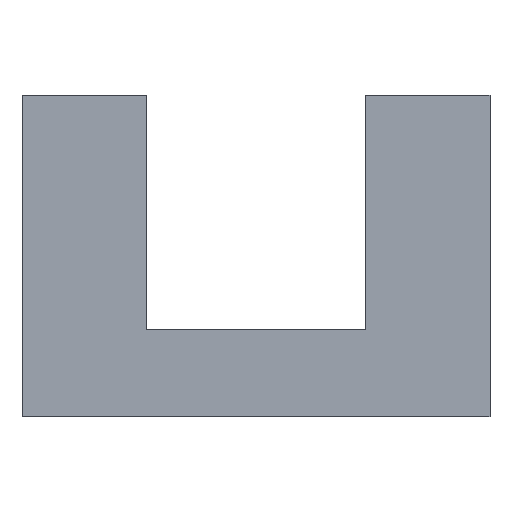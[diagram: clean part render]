
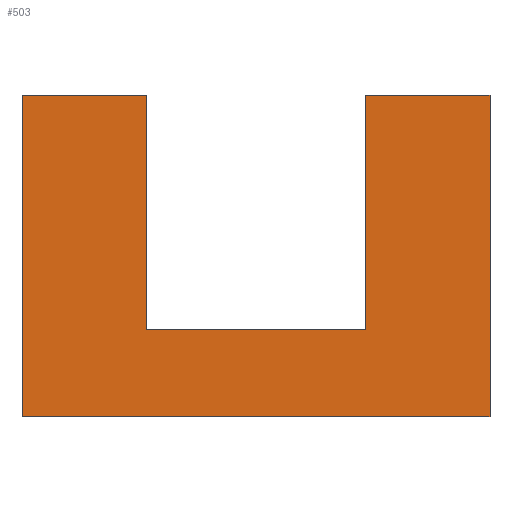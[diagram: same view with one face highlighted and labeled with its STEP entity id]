
A CAD part, top view. The second image highlights one B-rep face of the part: STEP entity #503.
In plain terms, the highlighted planar face has unit normal (0, 0, 1).
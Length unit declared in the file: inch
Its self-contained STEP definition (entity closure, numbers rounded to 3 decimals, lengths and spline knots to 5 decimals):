
#15 = VERTEX_POINT ( 'NONE', #444 ) ;
#22 = VERTEX_POINT ( 'NONE', #289 ) ;
#23 = LINE ( 'NONE', #588, #606 ) ;
#26 = VECTOR ( 'NONE', #138, 39.37008 ) ;
#27 = PLANE ( 'NONE',  #625 ) ;
#62 = EDGE_CURVE ( 'NONE', #439, #22, #23, .T. ) ;
#68 = CARTESIAN_POINT ( 'NONE',  ( 4., 2.75, 1. ) ) ;
#79 = DIRECTION ( 'NONE',  ( 1., 0., 0. ) ) ;
#82 = EDGE_CURVE ( 'NONE', #612, #176, #312, .T. ) ;
#96 = DIRECTION ( 'NONE',  ( 1., 0., 0. ) ) ;
#108 = CARTESIAN_POINT ( 'NONE',  ( -1.875, -1.25, 1. ) ) ;
#124 = EDGE_LOOP ( 'NONE', ( #639, #671, #161, #203, #224, #472, #421, #521 ) ) ;
#129 = VECTOR ( 'NONE', #485, 39.37008 ) ;
#138 = DIRECTION ( 'NONE',  ( -1., 0., 0. ) ) ;
#152 = VECTOR ( 'NONE', #96, 39.37008 ) ;
#155 = CARTESIAN_POINT ( 'NONE',  ( 1.875, 2.75, 1. ) ) ;
#160 = VECTOR ( 'NONE', #398, 39.37008 ) ;
#161 = ORIENTED_EDGE ( 'NONE', *, *, #62, .T. ) ;
#172 = DIRECTION ( 'NONE',  ( 0., -1., 0. ) ) ;
#175 = LINE ( 'NONE', #657, #26 ) ;
#176 = VERTEX_POINT ( 'NONE', #155 ) ;
#186 = LINE ( 'NONE', #415, #447 ) ;
#203 = ORIENTED_EDGE ( 'NONE', *, *, #403, .T. ) ;
#214 = CARTESIAN_POINT ( 'NONE',  ( -1.875, 2.75, 1. ) ) ;
#224 = ORIENTED_EDGE ( 'NONE', *, *, #311, .T. ) ;
#244 = CARTESIAN_POINT ( 'NONE',  ( -4., 2.75, 1. ) ) ;
#269 = DIRECTION ( 'NONE',  ( 1., 0., 0. ) ) ;
#276 = VERTEX_POINT ( 'NONE', #214 ) ;
#289 = CARTESIAN_POINT ( 'NONE',  ( -4., -2.75, 1. ) ) ;
#307 = VERTEX_POINT ( 'NONE', #462 ) ;
#311 = EDGE_CURVE ( 'NONE', #15, #612, #186, .T. ) ;
#312 = LINE ( 'NONE', #244, #160 ) ;
#351 = DIRECTION ( 'NONE',  ( 0., 0., 1. ) ) ;
#357 = LINE ( 'NONE', #382, #470 ) ;
#372 = LINE ( 'NONE', #108, #644 ) ;
#382 = CARTESIAN_POINT ( 'NONE',  ( -1.875, 2.75, 1. ) ) ;
#398 = DIRECTION ( 'NONE',  ( -1., 0., 0. ) ) ;
#403 = EDGE_CURVE ( 'NONE', #22, #15, #431, .T. ) ;
#404 = LINE ( 'NONE', #540, #129 ) ;
#409 = CARTESIAN_POINT ( 'NONE',  ( -4., 2.75, 1. ) ) ;
#413 = CARTESIAN_POINT ( 'NONE',  ( -4., -2.75, 1. ) ) ;
#415 = CARTESIAN_POINT ( 'NONE',  ( 4., 2.75, 1. ) ) ;
#421 = ORIENTED_EDGE ( 'NONE', *, *, #559, .F. ) ;
#431 = LINE ( 'NONE', #413, #152 ) ;
#439 = VERTEX_POINT ( 'NONE', #409 ) ;
#444 = CARTESIAN_POINT ( 'NONE',  ( 4., -2.75, 1. ) ) ;
#447 = VECTOR ( 'NONE', #672, 39.37008 ) ;
#453 = CARTESIAN_POINT ( 'NONE',  ( -1.875, -1.25, 1. ) ) ;
#462 = CARTESIAN_POINT ( 'NONE',  ( 1.875, -1.25, 1. ) ) ;
#470 = VECTOR ( 'NONE', #172, 39.37008 ) ;
#472 = ORIENTED_EDGE ( 'NONE', *, *, #82, .T. ) ;
#481 = DIRECTION ( 'NONE',  ( 0., -1., 0. ) ) ;
#485 = DIRECTION ( 'NONE',  ( 0., 1., 0. ) ) ;
#488 = VERTEX_POINT ( 'NONE', #453 ) ;
#503 = ADVANCED_FACE ( 'NONE', ( #572 ), #27, .T. ) ;
#509 = EDGE_CURVE ( 'NONE', #276, #439, #175, .T. ) ;
#521 = ORIENTED_EDGE ( 'NONE', *, *, #617, .F. ) ;
#540 = CARTESIAN_POINT ( 'NONE',  ( 1.875, 2.75, 1. ) ) ;
#559 = EDGE_CURVE ( 'NONE', #307, #176, #404, .T. ) ;
#572 = FACE_OUTER_BOUND ( 'NONE', #124, .T. ) ;
#588 = CARTESIAN_POINT ( 'NONE',  ( -4., 2.75, 1. ) ) ;
#606 = VECTOR ( 'NONE', #481, 39.37008 ) ;
#607 = CARTESIAN_POINT ( 'NONE',  ( 0., 0., 1. ) ) ;
#612 = VERTEX_POINT ( 'NONE', #68 ) ;
#617 = EDGE_CURVE ( 'NONE', #488, #307, #372, .T. ) ;
#625 = AXIS2_PLACEMENT_3D ( 'NONE', #607, #351, #79 ) ;
#639 = ORIENTED_EDGE ( 'NONE', *, *, #651, .F. ) ;
#644 = VECTOR ( 'NONE', #269, 39.37008 ) ;
#651 = EDGE_CURVE ( 'NONE', #276, #488, #357, .T. ) ;
#657 = CARTESIAN_POINT ( 'NONE',  ( -4., 2.75, 1. ) ) ;
#671 = ORIENTED_EDGE ( 'NONE', *, *, #509, .T. ) ;
#672 = DIRECTION ( 'NONE',  ( 0., 1., 0. ) ) ;
